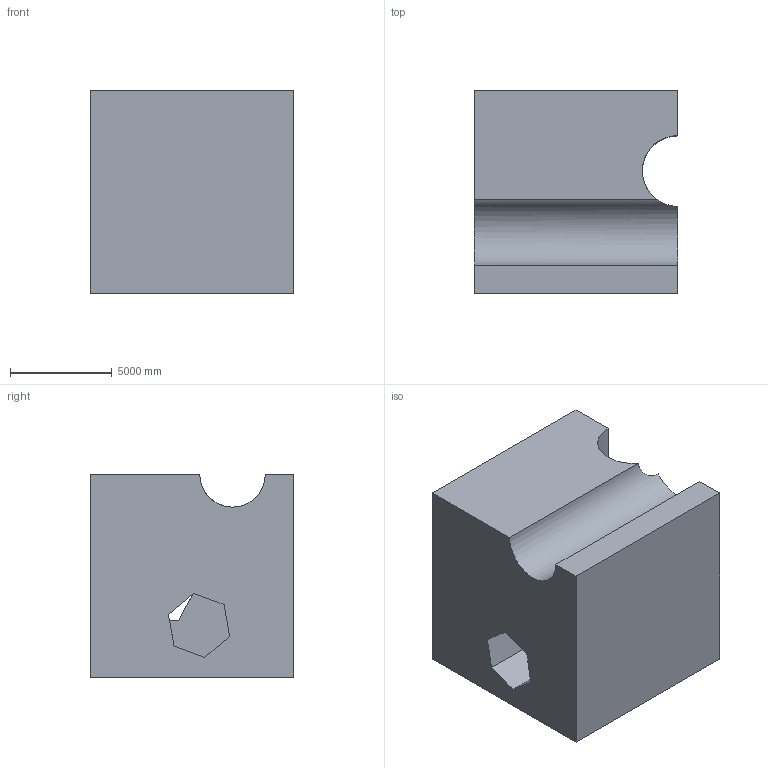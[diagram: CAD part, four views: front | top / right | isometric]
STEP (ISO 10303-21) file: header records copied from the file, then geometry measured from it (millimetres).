
FILE_DESCRIPTION (( 'STEP AP203' ), '1' );
FILE_NAME ('1399.STEP', '2022-08-18T14:14:33', ( 'user' ), ( '' ), 'SwSTEP 2.0', 'SolidWorks 2021', '' );
FILE_SCHEMA (( 'CONFIG_CONTROL_DESIGN' ));
Length unit declared in the file: centimetre
Products named in the file (1): 1399
Bounding box: 10000 x 10000 x 10000 mm (x, y, z)
Volume: 851494806631.9 mm3; surface area: 704110778.6 mm2
Topology: 1 solids, 1 shells, 26 faces, 74 edges, 49 vertices
Faces by surface type: plane 22, cylinder 4
Entity records: 986 total; most frequent: CARTESIAN_POINT 229, ORIENTED_EDGE 148, DIRECTION 133, EDGE_CURVE 74, LINE 59, VECTOR 59, VERTEX_POINT 49, AXIS2_PLACEMENT_3D 37
